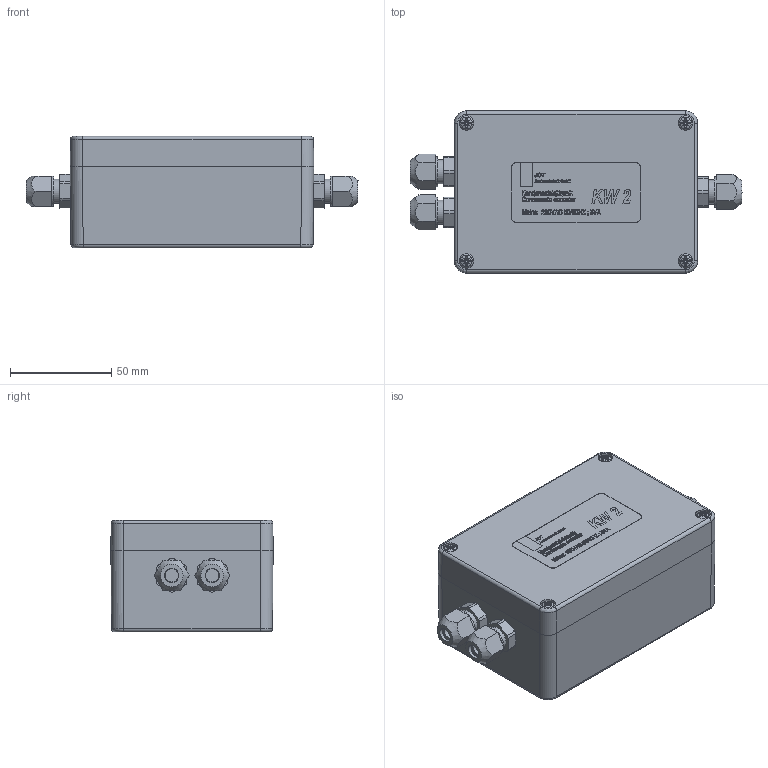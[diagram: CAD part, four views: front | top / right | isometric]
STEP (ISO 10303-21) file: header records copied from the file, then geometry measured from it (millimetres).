
FILE_DESCRIPTION(/* description */ ('Unknown'),/* implementation_level */ '2;1');
FILE_NAME(/* name */ 'KW-2 outline model Wall-mounted enclosure',/* time_stamp */ '2026-05-08T09:11:28+02:00',/* author */ ('Unknown'),/* organization */ ('Unknown'),/* preprocessor_version */ 'ST-DEVELOPER v20',/* originating_system */ 'Solid Edge',/* authorisation */ 'Unknown');
FILE_SCHEMA (('AUTOMOTIVE_DESIGN {1 0 10303 214 3 1 1}'));
Products named in the file (10): Kxyz_KW_ZUS001_KW-2E_Wandaufbaugehäuse#00; K1712021_eterm_SLG013_Makrolon-Gehäuse_120x80x55_inkl_3xKVS-M12oderPG
7; eterm_024_UT-PC-ETM-128055_oa_0; eterm_022_O-Ring-03-2100; eterm_020_flachkopfschraube mit kreuzschlitz - typ ia - m4x0.7 x 24; eterm_023_Gewindemuffe-M4; eterm_021_OT-PC-TEM-128055; eterm_028_Kableverschraubung_M12x1,5oderPg7; eterm_026_MS-Spreizdübel_M3; Etikett_Kondensatelektronik_JCT_KW2_L6011
Assembly tree (20 placements, depth 3):
  Kxyz_KW_ZUS001_KW-2E_Wandaufbaugehäuse#00
    K1712021_eterm_SLG013_Makrolon-Gehäuse_120x80x55_inkl_3xKVS-M12oderPG
7
      eterm_024_UT-PC-ETM-128055_oa_0
      eterm_022_O-Ring-03-2100
      eterm_020_flachkopfschraube mit kreuzschlitz - typ ia - m4x0.7 x 24  x4
      eterm_023_Gewindemuffe-M4  x4
      eterm_021_OT-PC-TEM-128055
      eterm_028_Kableverschraubung_M12x1,5oderPg7  x3
      eterm_026_MS-Spreizdübel_M3  x4
    Etikett_Kondensatelektronik_JCT_KW2_L6011
Bounding box: 163.69 x 80 x 55.13 mm (x, y, z)
Volume: 150607.3 mm3; surface area: 106688 mm2
Topology: 19 solids, 22 shells, 1875 faces, 4966 edges, 3237 vertices
Faces by surface type: plane 1038, cylinder 359, bspline 247, torus 114, cone 113, sphere 4
Full cylindrical faces by diameter (mm): 2.459 x4, 2.5 x8, 3.242 x4, 4 x18, 5 x4, 6.6 x3, 7.04 x3, 7.1 x3, 7.2 x4, 8 x4, 8.7 x3, 10.376 x3, 10.647 x3, 11 x3, 12 x6, 14.9 x3
Entity records: 59011 total; most frequent: CARTESIAN_POINT 19215, ORIENTED_EDGE 6670, DIRECTION 5898, EDGE_CURVE 3335, VERTEX_POINT 2230, LINE 2130, VECTOR 2130, AXIS2_PLACEMENT_3D 1884
